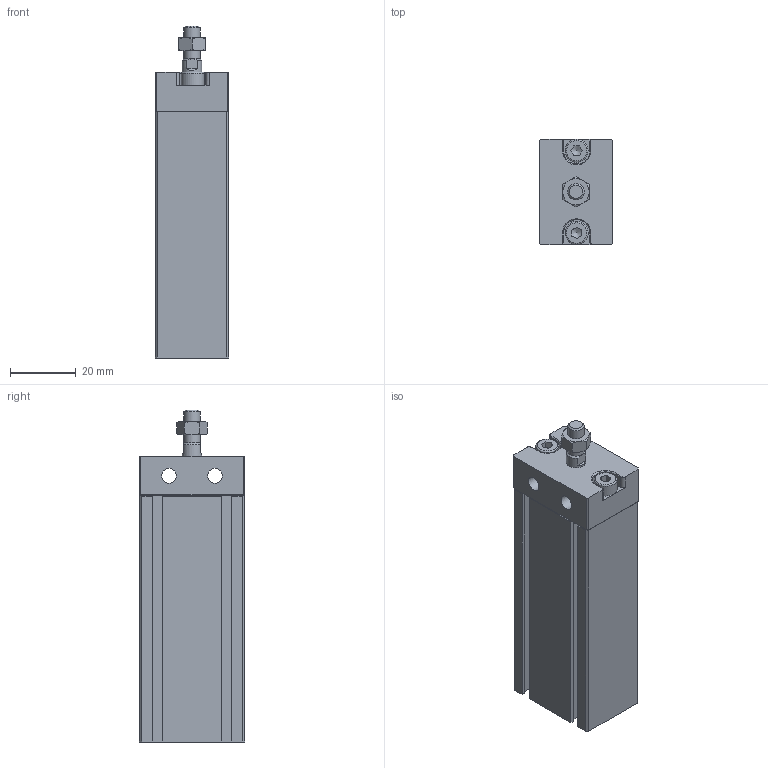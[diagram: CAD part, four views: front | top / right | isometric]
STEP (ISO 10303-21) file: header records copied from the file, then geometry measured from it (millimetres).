
FILE_DESCRIPTION((''),'2;1');
FILE_NAME('I:\3D電子目錄\氣缸\ND\ND\ND16-B\ND16x50-B.stp','2007-07-23T19:23:11',('Administrator'),(''),'Autodesk Inventor 11','Autodesk Inventor 11','');
FILE_SCHEMA(('AUTOMOTIVE_DESIGN { 1 0 10303 214 1 1 1 1 }'));
Length unit declared in the file: millimetre
Products named in the file (4): ND16-B; R 形環 18; ISO 4762 M4 x 10
Assembly tree (4 placements, depth 2):
  ND16-B
    ND16-B
    R 形環 18
    ISO 4762 M4 x 10  x2
Bounding box: 22.4 x 32.1 x 101 mm (x, y, z)
Volume: 54119.4 mm3; surface area: 17613.6 mm2
Topology: 5 solids, 5 shells, 190 faces, 450 edges, 285 vertices
Faces by surface type: plane 117, cylinder 28, cone 28, bspline 14, torus 3
Full cylindrical faces by diameter (mm): 1.5 x4, 4 x2, 4.5 x2, 5 x2, 6 x1, 7 x2, 10 x1, 18 x1, 19 x1
Entity records: 5015 total; most frequent: CARTESIAN_POINT 1070, DIRECTION 784, ORIENTED_EDGE 754, EDGE_CURVE 377, AXIS2_PLACEMENT_3D 271, VERTEX_POINT 259, VECTOR 242, LINE 242
